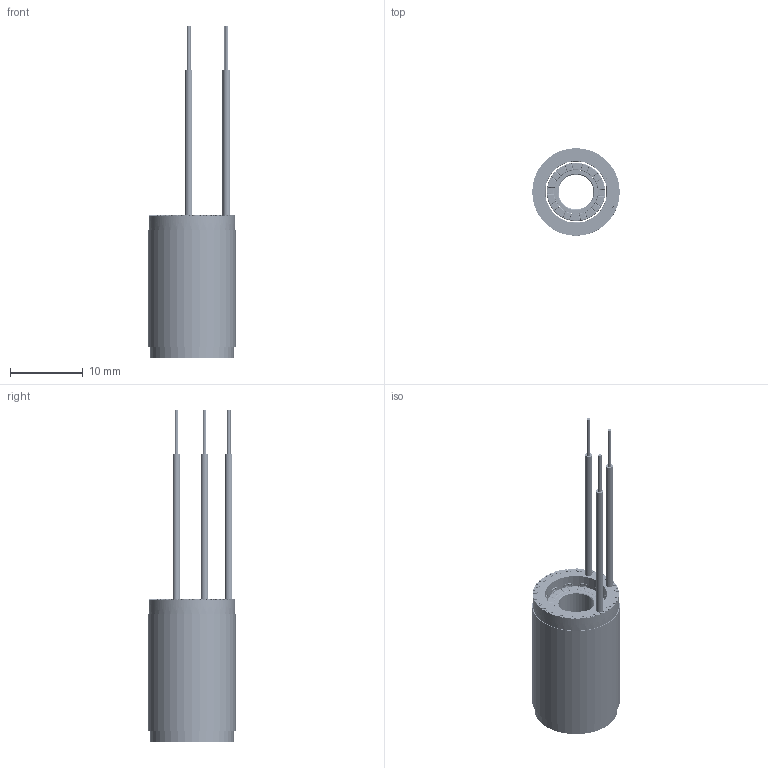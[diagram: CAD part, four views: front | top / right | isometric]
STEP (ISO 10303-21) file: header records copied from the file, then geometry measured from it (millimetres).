
FILE_DESCRIPTION (( 'STEP AP203' ), '1' );
FILE_NAME ('U1220拸遺薯撻萇儂.STEP', '2026-06-15T08:49:04', ( 'Windows User' ), ( 'P R C' ), 'SwSTEP 2.0', 'SolidWorks 2023', '' );
FILE_SCHEMA (( 'CONFIG_CONTROL_DESIGN' ));
Length unit declared in the file: millimetre
Products named in the file (10): 非出线端; U1220线圈; U1220定子铁芯; U1220磁钢-B; 零件3; 出线端; U1220磁钢N极; U1220无框力矩电机; U1220 轴; U1220PCB板
Assembly tree (38 placements, depth 2):
  U1220无框力矩电机
    U1220定子铁芯
    U1220 轴
    U1220磁钢-B  x10
    U1220磁钢N极  x10
    U1220线圈  x12
    U1220PCB板
    出线端
    非出线端
    零件3
Bounding box: 12 x 12 x 45.5 mm (x, y, z)
Volume: 1566.1 mm3; surface area: 10582 mm2
Topology: 268 solids, 268 shells, 5364 faces, 15124 edges, 9742 vertices
Faces by surface type: cylinder 2836, torus 2000, plane 344, sphere 180, cone 4
Entity records: 32702 total; most frequent: DIRECTION 5953, CARTESIAN_POINT 5482, ORIENTED_EDGE 5212, EDGE_CURVE 2606, AXIS2_PLACEMENT_3D 2415, VERTEX_POINT 1723, CIRCLE 1465, LINE 1123
